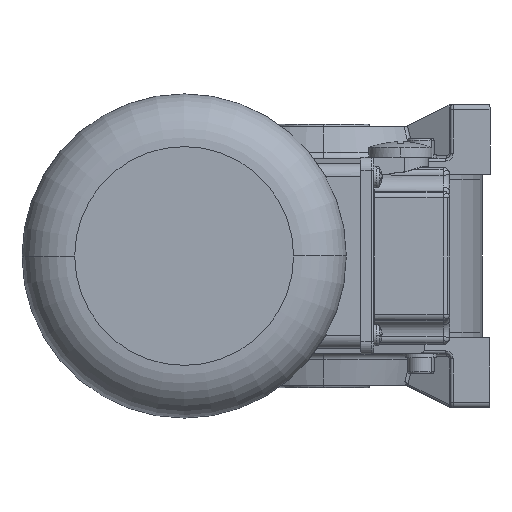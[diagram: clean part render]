
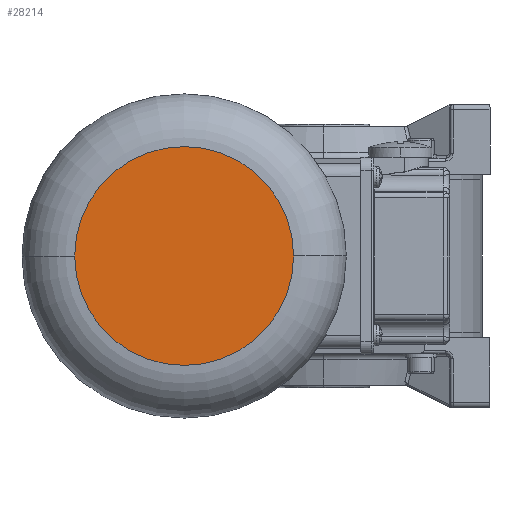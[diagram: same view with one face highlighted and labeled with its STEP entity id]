
A CAD part, left-side view. The second image highlights one B-rep face of the part: STEP entity #28214.
In plain terms, the highlighted planar face has unit normal (-1, 0, 0).
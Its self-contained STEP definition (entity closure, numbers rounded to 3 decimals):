
#181 = AXIS2_PLACEMENT_3D ( 'NONE', #6511, #14160, #7340 ) ;
#2248 = VERTEX_POINT ( 'NONE', #21477 ) ;
#4494 = ORIENTED_EDGE ( 'NONE', *, *, #15418, .T. ) ;
#6511 = CARTESIAN_POINT ( 'NONE',  ( 0., 0., 0. ) ) ;
#7340 = DIRECTION ( 'NONE',  ( 0., 0., -1. ) ) ;
#8448 = DIRECTION ( 'NONE',  ( -1., 0., 0. ) ) ;
#8703 = AXIS2_PLACEMENT_3D ( 'NONE', #23285, #11805, #12084 ) ;
#9101 = AXIS2_PLACEMENT_3D ( 'NONE', #24225, #8448, #26739 ) ;
#9119 = EDGE_LOOP ( 'NONE', ( #4494, #18471 ) ) ;
#11805 = DIRECTION ( 'NONE',  ( -1., 0., 0. ) ) ;
#12084 = DIRECTION ( 'NONE',  ( 0., 0., -1. ) ) ;
#14160 = DIRECTION ( 'NONE',  ( 1., 0., 0. ) ) ;
#15418 = EDGE_CURVE ( 'NONE', #2248, #26794, #21430, .T. ) ;
#18471 = ORIENTED_EDGE ( 'NONE', *, *, #25967, .T. ) ;
#20932 = PLANE ( 'NONE',  #181 ) ;
#21327 = CIRCLE ( 'NONE', #9101, 41.5 ) ;
#21430 = CIRCLE ( 'NONE', #8703, 41.5 ) ;
#21477 = CARTESIAN_POINT ( 'NONE',  ( 0., 0., -41.5 ) ) ;
#21870 = CARTESIAN_POINT ( 'NONE',  ( 0., 0., 41.5 ) ) ;
#23285 = CARTESIAN_POINT ( 'NONE',  ( 0., 0., 0. ) ) ;
#24225 = CARTESIAN_POINT ( 'NONE',  ( 0., 0., 0. ) ) ;
#25357 = FACE_OUTER_BOUND ( 'NONE', #9119, .T. ) ;
#25967 = EDGE_CURVE ( 'NONE', #26794, #2248, #21327, .T. ) ;
#26739 = DIRECTION ( 'NONE',  ( 0., 0., -1. ) ) ;
#26794 = VERTEX_POINT ( 'NONE', #21870 ) ;
#28214 = ADVANCED_FACE ( 'NONE', ( #25357 ), #20932, .F. ) ;
